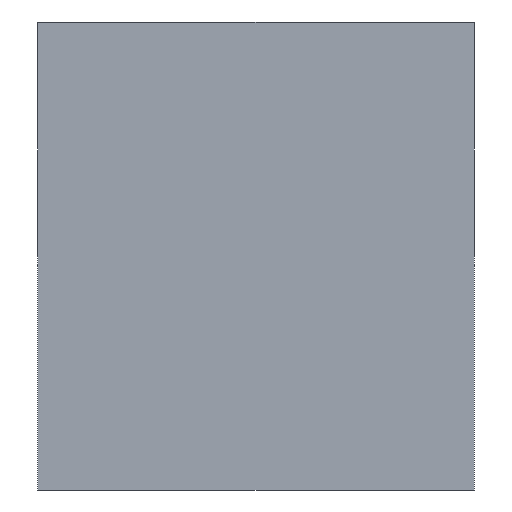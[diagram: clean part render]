
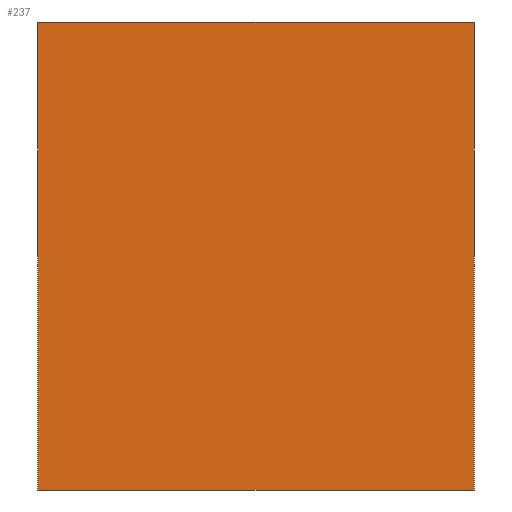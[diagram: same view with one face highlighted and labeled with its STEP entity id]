
A CAD part, front view. The second image highlights one B-rep face of the part: STEP entity #237.
In plain terms, the highlighted planar face has unit normal (0, -1, 0).
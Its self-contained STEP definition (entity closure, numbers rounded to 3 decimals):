
#21 = EDGE_CURVE('',#22,#24,#26,.T.);
#22 = VERTEX_POINT('',#23);
#23 = CARTESIAN_POINT('',(-350.,-188.913,6.));
#24 = VERTEX_POINT('',#25);
#25 = CARTESIAN_POINT('',(-350.,-188.913,36.));
#26 = SURFACE_CURVE('',#27,(#31,#43),.PCURVE_S1.);
#27 = LINE('',#28,#29);
#28 = CARTESIAN_POINT('',(-350.,-188.913,6.));
#29 = VECTOR('',#30,1.);
#30 = DIRECTION('',(0.,0.,1.));
#31 = PCURVE('',#32,#37);
#32 = PLANE('',#33);
#33 = AXIS2_PLACEMENT_3D('',#34,#35,#36);
#34 = CARTESIAN_POINT('',(-350.,-188.913,6.));
#35 = DIRECTION('',(1.,0.,-0.));
#36 = DIRECTION('',(0.,0.,1.));
#37 = DEFINITIONAL_REPRESENTATION('',(#38),#42);
#38 = LINE('',#39,#40);
#39 = CARTESIAN_POINT('',(0.,0.));
#40 = VECTOR('',#41,1.);
#41 = DIRECTION('',(1.,0.));
#42 = ( GEOMETRIC_REPRESENTATION_CONTEXT(2) 
PARAMETRIC_REPRESENTATION_CONTEXT() REPRESENTATION_CONTEXT('2D SPACE',''
  ) );
#43 = PCURVE('',#44,#49);
#44 = PLANE('',#45);
#45 = AXIS2_PLACEMENT_3D('',#46,#47,#48);
#46 = CARTESIAN_POINT('',(-350.,-188.913,6.));
#47 = DIRECTION('',(-0.,1.,0.));
#48 = DIRECTION('',(0.,0.,1.));
#49 = DEFINITIONAL_REPRESENTATION('',(#50),#54);
#50 = LINE('',#51,#52);
#51 = CARTESIAN_POINT('',(0.,0.));
#52 = VECTOR('',#53,1.);
#53 = DIRECTION('',(1.,0.));
#54 = ( GEOMETRIC_REPRESENTATION_CONTEXT(2) 
PARAMETRIC_REPRESENTATION_CONTEXT() REPRESENTATION_CONTEXT('2D SPACE',''
  ) );
#72 = PLANE('',#73);
#73 = AXIS2_PLACEMENT_3D('',#74,#75,#76);
#74 = CARTESIAN_POINT('',(-350.,-188.913,6.));
#75 = DIRECTION('',(0.,0.,1.));
#76 = DIRECTION('',(1.,0.,-0.));
#126 = PLANE('',#127);
#127 = AXIS2_PLACEMENT_3D('',#128,#129,#130);
#128 = CARTESIAN_POINT('',(-350.,-188.913,36.));
#129 = DIRECTION('',(0.,0.,1.));
#130 = DIRECTION('',(1.,0.,-0.));
#141 = EDGE_CURVE('',#142,#144,#146,.T.);
#142 = VERTEX_POINT('',#143);
#143 = CARTESIAN_POINT('',(-322.,-188.913,6.));
#144 = VERTEX_POINT('',#145);
#145 = CARTESIAN_POINT('',(-322.,-188.913,36.));
#146 = SURFACE_CURVE('',#147,(#151,#163),.PCURVE_S1.);
#147 = LINE('',#148,#149);
#148 = CARTESIAN_POINT('',(-322.,-188.913,6.));
#149 = VECTOR('',#150,1.);
#150 = DIRECTION('',(0.,0.,1.));
#151 = PCURVE('',#152,#157);
#152 = PLANE('',#153);
#153 = AXIS2_PLACEMENT_3D('',#154,#155,#156);
#154 = CARTESIAN_POINT('',(-322.,-188.913,6.));
#155 = DIRECTION('',(1.,0.,-0.));
#156 = DIRECTION('',(0.,0.,1.));
#157 = DEFINITIONAL_REPRESENTATION('',(#158),#162);
#158 = LINE('',#159,#160);
#159 = CARTESIAN_POINT('',(0.,0.));
#160 = VECTOR('',#161,1.);
#161 = DIRECTION('',(1.,0.));
#162 = ( GEOMETRIC_REPRESENTATION_CONTEXT(2) 
PARAMETRIC_REPRESENTATION_CONTEXT() REPRESENTATION_CONTEXT('2D SPACE',''
  ) );
#163 = PCURVE('',#44,#164);
#164 = DEFINITIONAL_REPRESENTATION('',(#165),#169);
#165 = LINE('',#166,#167);
#166 = CARTESIAN_POINT('',(0.,28.));
#167 = VECTOR('',#168,1.);
#168 = DIRECTION('',(1.,0.));
#169 = ( GEOMETRIC_REPRESENTATION_CONTEXT(2) 
PARAMETRIC_REPRESENTATION_CONTEXT() REPRESENTATION_CONTEXT('2D SPACE',''
  ) );
#237 = ADVANCED_FACE('',(#238),#44,.F.);
#238 = FACE_BOUND('',#239,.F.);
#239 = EDGE_LOOP('',(#240,#261,#262,#283));
#240 = ORIENTED_EDGE('',*,*,#241,.F.);
#241 = EDGE_CURVE('',#22,#142,#242,.T.);
#242 = SURFACE_CURVE('',#243,(#247,#254),.PCURVE_S1.);
#243 = LINE('',#244,#245);
#244 = CARTESIAN_POINT('',(-350.,-188.913,6.));
#245 = VECTOR('',#246,1.);
#246 = DIRECTION('',(1.,0.,-0.));
#247 = PCURVE('',#44,#248);
#248 = DEFINITIONAL_REPRESENTATION('',(#249),#253);
#249 = LINE('',#250,#251);
#250 = CARTESIAN_POINT('',(0.,0.));
#251 = VECTOR('',#252,1.);
#252 = DIRECTION('',(0.,1.));
#253 = ( GEOMETRIC_REPRESENTATION_CONTEXT(2) 
PARAMETRIC_REPRESENTATION_CONTEXT() REPRESENTATION_CONTEXT('2D SPACE',''
  ) );
#254 = PCURVE('',#72,#255);
#255 = DEFINITIONAL_REPRESENTATION('',(#256),#260);
#256 = LINE('',#257,#258);
#257 = CARTESIAN_POINT('',(0.,0.));
#258 = VECTOR('',#259,1.);
#259 = DIRECTION('',(1.,0.));
#260 = ( GEOMETRIC_REPRESENTATION_CONTEXT(2) 
PARAMETRIC_REPRESENTATION_CONTEXT() REPRESENTATION_CONTEXT('2D SPACE',''
  ) );
#261 = ORIENTED_EDGE('',*,*,#21,.T.);
#262 = ORIENTED_EDGE('',*,*,#263,.T.);
#263 = EDGE_CURVE('',#24,#144,#264,.T.);
#264 = SURFACE_CURVE('',#265,(#269,#276),.PCURVE_S1.);
#265 = LINE('',#266,#267);
#266 = CARTESIAN_POINT('',(-350.,-188.913,36.));
#267 = VECTOR('',#268,1.);
#268 = DIRECTION('',(1.,0.,-0.));
#269 = PCURVE('',#44,#270);
#270 = DEFINITIONAL_REPRESENTATION('',(#271),#275);
#271 = LINE('',#272,#273);
#272 = CARTESIAN_POINT('',(30.,0.));
#273 = VECTOR('',#274,1.);
#274 = DIRECTION('',(0.,1.));
#275 = ( GEOMETRIC_REPRESENTATION_CONTEXT(2) 
PARAMETRIC_REPRESENTATION_CONTEXT() REPRESENTATION_CONTEXT('2D SPACE',''
  ) );
#276 = PCURVE('',#126,#277);
#277 = DEFINITIONAL_REPRESENTATION('',(#278),#282);
#278 = LINE('',#279,#280);
#279 = CARTESIAN_POINT('',(0.,0.));
#280 = VECTOR('',#281,1.);
#281 = DIRECTION('',(1.,0.));
#282 = ( GEOMETRIC_REPRESENTATION_CONTEXT(2) 
PARAMETRIC_REPRESENTATION_CONTEXT() REPRESENTATION_CONTEXT('2D SPACE',''
  ) );
#283 = ORIENTED_EDGE('',*,*,#141,.F.);
